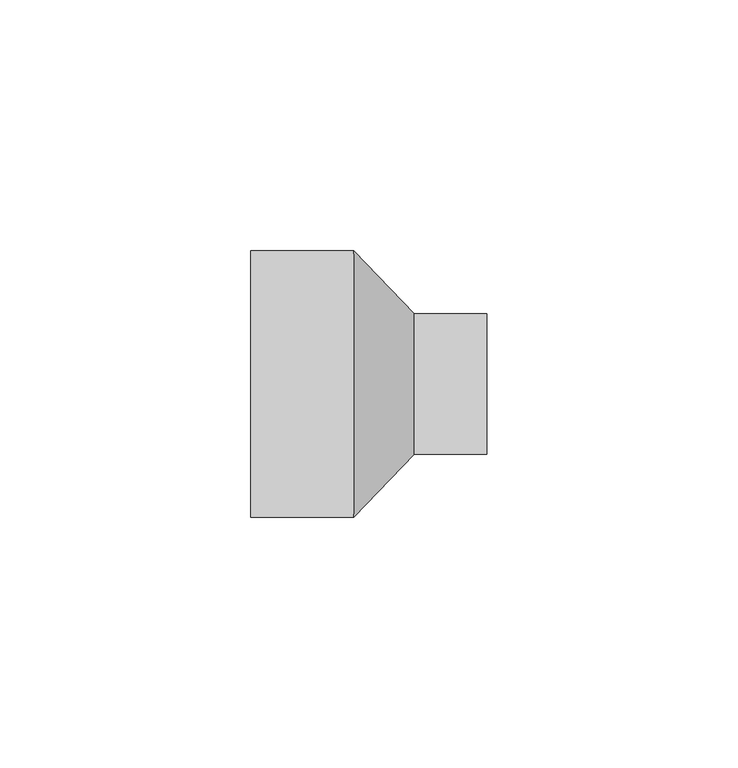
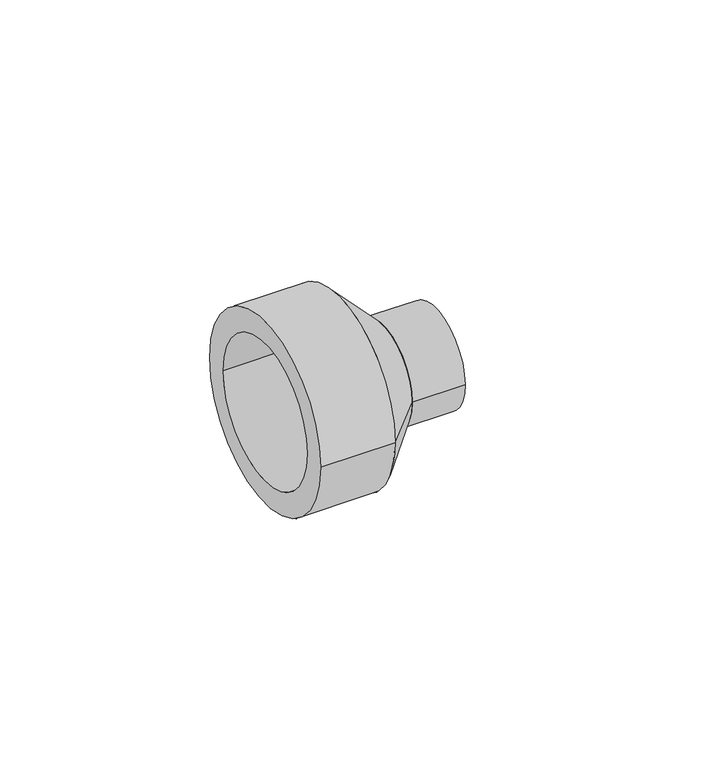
"""IFC4 building model written with IfcOpenShell, lengths in millimetres: pipe fitting geometry, 23_Муфта переходная ВВ : Белый цвет."""

from ifc_helpers import new_model, si_unit, point, frame, origin, origin_2d, place, context, project, spatial, polyline, circle_curve, trimmed, segment, composite_curve, outline, extrude, source, transform, mapped, element, save
from ifc_brep_helpers import plane_surface, revolved_surface, advanced_brep


def pipe_fitting_1c1d5d57(model_context):
    return source(origin(), model_context, "Body", "SolidModel", [
        extrude(outline(composite_curve([segment(trimmed(circle_curve(origin_2d(), 14.0), [point((-14.0, 0.0))], [point((14.0, 0.0))], False, "CARTESIAN"), True, "CONTINUOUS"), segment(trimmed(circle_curve(origin_2d(), 14.0), [point((14.0, 0.0))], [point((-14.0, 0.0))], False, "CARTESIAN"), True, "CONTINUOUS")], self_intersect=False), holes=[composite_curve([segment(trimmed(circle_curve(origin_2d(), 10.0), [point((-10.0, 0.0))], [point((10.0, 0.0))], True, "CARTESIAN"), True, "CONTINUOUS"), segment(trimmed(circle_curve(origin_2d(), 10.0), [point((10.0, 0.0))], [point((-10.0, 0.0))], True, "CARTESIAN"), True, "CONTINUOUS")], self_intersect=False)]), frame((9.0, 0.0, 0.0), z_axis=(1.0, 0.0, 0.0), x_axis=(0.0, 1.0, 0.0)), (0.0, 0.0, 1.0), 14.5),
        extrude(outline(composite_curve([segment(trimmed(circle_curve(origin_2d(), 26.5), [point((-26.5, 0.0))], [point((26.5, 0.0))], False, "CARTESIAN"), True, "CONTINUOUS"), segment(trimmed(circle_curve(origin_2d(), 26.5), [point((26.5, 0.0))], [point((-26.5, 0.0))], False, "CARTESIAN"), True, "CONTINUOUS")], self_intersect=False), holes=[composite_curve([segment(trimmed(circle_curve(origin_2d(), 20.0), [point((-20.0, 0.0))], [point((20.0, 0.0))], True, "CARTESIAN"), True, "CONTINUOUS"), segment(trimmed(circle_curve(origin_2d(), 20.0), [point((20.0, 0.0))], [point((-20.0, 0.0))], True, "CARTESIAN"), True, "CONTINUOUS")], self_intersect=False)]), frame((-23.5, 0.0, 0.0), z_axis=(1.0, 0.0, 0.0), x_axis=(0.0, 1.0, 0.0)), (0.0, 0.0, 1.0), 20.5),
        advanced_brep(
        [(9.0, -14.0, 0.0), (9.0, 14.0, 0.0), (9.0, 10.0, 0.0), (9.0, -10.0, 0.0), (-3.0, -26.5, 0.0), (-3.0, 26.5, 0.0), (-3.0, -20.0, 0.0), (-3.0, 20.0, 0.0)],
        [
            (0, 1, circle_curve(frame((9.0, 0.0, 0.0), z_axis=(1.0, 0.0, 0.0), x_axis=(0.0, -1.0, 0.0)), 14.0)),
            (1, 0, circle_curve(frame((9.0, 0.0, 0.0), z_axis=(1.0, 0.0, 0.0), x_axis=(0.0, 1.0, 0.0)), 14.0)),
            (2, 3, circle_curve(frame((9.0, 0.0, 0.0), z_axis=(-1.0, 0.0, 0.0), x_axis=(0.0, -1.0, 0.0)), 10.0)),
            (3, 2, circle_curve(frame((9.0, 0.0, 0.0), z_axis=(-1.0, 0.0, 0.0), x_axis=(0.0, 1.0, 0.0)), 10.0)),
            (4, 5, circle_curve(frame((-3.0, 0.0, 0.0), z_axis=(-1.0, 0.0, 0.0), x_axis=(0.0, 1.0, 0.0)), 26.5)),
            (5, 4, circle_curve(frame((-3.0, 0.0, 0.0), z_axis=(-1.0, 0.0, 0.0), x_axis=(0.0, -1.0, 0.0)), 26.5)),
            (6, 7, circle_curve(frame((-3.0, 0.0, 0.0), z_axis=(1.0, 0.0, 0.0), x_axis=(0.0, -1.0, 0.0)), 20.0)),
            (7, 6, circle_curve(frame((-3.0, 0.0, 0.0), z_axis=(1.0, 0.0, 0.0), x_axis=(0.0, 1.0, 0.0)), 20.0)),
            (0, 4),
            (5, 1),
            (6, 3),
            (2, 7),
        ],
        [
            plane_surface(frame((9.0, 0.0, 0.0), z_axis=(1.0, 0.0, 0.0), x_axis=(0.0, 0.0, -1.0))),
            plane_surface(frame((-3.0, 0.0, 0.0), z_axis=(-1.0, 0.0, 0.0), x_axis=(0.0, 0.0, -1.0))),
            revolved_surface(polyline([(9.0, -14.0, 0.0), (-3.0, -26.5, 0.0)]), (22.44, 0.0, 0.0), (-1.0, 0.0, 0.0)),
            revolved_surface(polyline([(9.0, 14.0, 0.0), (-3.0, 26.5, 0.0)]), (22.44, 0.0, 0.0), (-1.0, 0.0, 0.0)),
            revolved_surface(polyline([(-3.0, -20.0, 0.0), (9.0, -10.0, 0.0)]), (21.0, 0.0, 0.0), (-1.0, 0.0, 0.0)),
        ],
        [
            (0, [[1, 2], [3, 4]]),
            (1, [[5, 6], [7, 8]]),
            (2, [[-1, 9, -6, 10]]),
            (3, [[-2, -10, -5, -9]]),
            (4, [[11, -3, 12, -7]]),
            (4, [[-11, -8, -12, -4]]),
        ],
    ),
    ])


if __name__ == "__main__":
    model = new_model("IFC4")
    model_context = context("Model", 3, world=origin())
    ifc_project = project(units=[si_unit("LENGTHUNIT", "METRE", prefix="MILLI")], contexts=[model_context])
    site = spatial("IfcSite", under=ifc_project)
    building = spatial("IfcBuilding", under=site)
    placement = place(None, origin())
    pipe_fitting_shape = pipe_fitting_1c1d5d57(model_context)
    element("IfcPipeFitting", 1, ObjectType="23_Муфта переходная ВВ : Белый цвет", at=placement, inside=building, context=model_context, shape_type="MappedRepresentation", body=[
        mapped(pipe_fitting_shape, transform((0.0, 0.0, 0.0), x_axis=(1.0, 0.0, 0.0), y_axis=(0.0, 1.0, 0.0), z_axis=(0.0, 0.0, 1.0))),
    ])
    save(model, "model.ifc")
